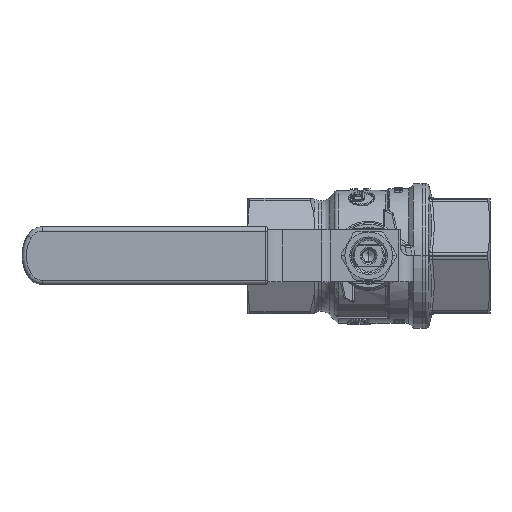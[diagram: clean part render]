
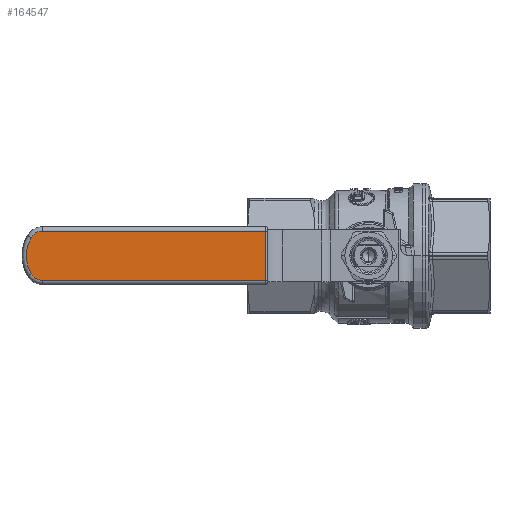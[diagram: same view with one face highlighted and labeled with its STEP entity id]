
A CAD part, top view. The second image highlights one B-rep face of the part: STEP entity #164547.
In plain terms, the highlighted planar face has unit normal (0, 0, 1).
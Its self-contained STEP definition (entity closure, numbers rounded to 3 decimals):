
#163568 = CYLINDRICAL_SURFACE('',#163569,0.7);
#163569 = AXIS2_PLACEMENT_3D('',#163570,#163571,#163572);
#163570 = CARTESIAN_POINT('',(-35.7,-21.651,51.085));
#163571 = DIRECTION('',(0.,-1.,0.));
#163572 = DIRECTION('',(0.,0.,1.));
#164068 = VERTEX_POINT('',#164069);
#164069 = CARTESIAN_POINT('',(-35.7,-21.785,51.785));
#164091 = EDGE_CURVE('',#164068,#164092,#164094,.T.);
#164092 = VERTEX_POINT('',#164093);
#164093 = CARTESIAN_POINT('',(-35.7,-38.785,51.785));
#164094 = SURFACE_CURVE('',#164095,(#164099,#164106),.PCURVE_S1.);
#164095 = LINE('',#164096,#164097);
#164096 = CARTESIAN_POINT('',(-35.7,-21.785,51.785));
#164097 = VECTOR('',#164098,1.);
#164098 = DIRECTION('',(0.,-1.,0.));
#164099 = PCURVE('',#163568,#164100);
#164100 = DEFINITIONAL_REPRESENTATION('',(#164101),#164105);
#164101 = LINE('',#164102,#164103);
#164102 = CARTESIAN_POINT('',(6.283,0.135));
#164103 = VECTOR('',#164104,1.);
#164104 = DIRECTION('',(0.,1.));
#164105 = ( GEOMETRIC_REPRESENTATION_CONTEXT(2) 
PARAMETRIC_REPRESENTATION_CONTEXT() REPRESENTATION_CONTEXT('2D SPACE',''
  ) );
#164106 = PCURVE('',#164107,#164112);
#164107 = PLANE('',#164108);
#164108 = AXIS2_PLACEMENT_3D('',#164109,#164110,#164111);
#164109 = CARTESIAN_POINT('',(-120.,-20.285,51.785));
#164110 = DIRECTION('',(0.,0.,1.));
#164111 = DIRECTION('',(0.,-1.,0.));
#164112 = DEFINITIONAL_REPRESENTATION('',(#164113),#164117);
#164113 = LINE('',#164114,#164115);
#164114 = CARTESIAN_POINT('',(1.5,84.3));
#164115 = VECTOR('',#164116,1.);
#164116 = DIRECTION('',(1.,0.));
#164117 = ( GEOMETRIC_REPRESENTATION_CONTEXT(2) 
PARAMETRIC_REPRESENTATION_CONTEXT() REPRESENTATION_CONTEXT('2D SPACE',''
  ) );
#164163 = CYLINDRICAL_SURFACE('',#164164,1.5);
#164164 = AXIS2_PLACEMENT_3D('',#164165,#164166,#164167);
#164165 = CARTESIAN_POINT('',(-113.045,-38.785,
    50.285));
#164166 = DIRECTION('',(1.,0.,0.));
#164167 = DIRECTION('',(0.,-1.,0.));
#164457 = TOROIDAL_SURFACE('',#164458,4.5,1.5);
#164458 = AXIS2_PLACEMENT_3D('',#164459,#164460,#164461);
#164459 = CARTESIAN_POINT('',(-112.928,-34.285,
    50.285));
#164460 = DIRECTION('',(0.,0.,-1.));
#164461 = DIRECTION('',(-0.882,-0.472,
    0.));
#164473 = VERTEX_POINT('',#164474);
#164474 = CARTESIAN_POINT('',(-116.825,-36.535,
    51.785));
#164489 = TOROIDAL_SURFACE('',#164490,12.5,1.5);
#164490 = AXIS2_PLACEMENT_3D('',#164491,#164492,#164493);
#164491 = CARTESIAN_POINT('',(-106.,-30.285,50.285));
#164492 = DIRECTION('',(0.,0.,1.));
#164493 = DIRECTION('',(-0.861,0.508,0.)
  );
#164503 = VERTEX_POINT('',#164504);
#164504 = CARTESIAN_POINT('',(-112.928,-38.785,
    51.785));
#164526 = EDGE_CURVE('',#164473,#164503,#164527,.T.);
#164527 = SURFACE_CURVE('',#164528,(#164533,#164540),.PCURVE_S1.);
#164528 = CIRCLE('',#164529,4.5);
#164529 = AXIS2_PLACEMENT_3D('',#164530,#164531,#164532);
#164530 = CARTESIAN_POINT('',(-112.928,-34.285,
    51.785));
#164531 = DIRECTION('',(0.,0.,1.));
#164532 = DIRECTION('',(-0.866,-0.5,0.));
#164533 = PCURVE('',#164457,#164534);
#164534 = DEFINITIONAL_REPRESENTATION('',(#164535),#164539);
#164535 = LINE('',#164536,#164537);
#164536 = CARTESIAN_POINT('',(6.251,4.712));
#164537 = VECTOR('',#164538,1.);
#164538 = DIRECTION('',(-1.,0.));
#164539 = ( GEOMETRIC_REPRESENTATION_CONTEXT(2) 
PARAMETRIC_REPRESENTATION_CONTEXT() REPRESENTATION_CONTEXT('2D SPACE',''
  ) );
#164540 = PCURVE('',#164107,#164541);
#164541 = DEFINITIONAL_REPRESENTATION('',(#164542),#164546);
#164542 = CIRCLE('',#164543,4.5);
#164543 = AXIS2_PLACEMENT_2D('',#164544,#164545);
#164544 = CARTESIAN_POINT('',(14.,7.072));
#164545 = DIRECTION('',(0.5,-0.866));
#164546 = ( GEOMETRIC_REPRESENTATION_CONTEXT(2) 
PARAMETRIC_REPRESENTATION_CONTEXT() REPRESENTATION_CONTEXT('2D SPACE',''
  ) );
#164547 = ADVANCED_FACE('',(#164548),#164107,.T.);
#164548 = FACE_BOUND('',#164549,.T.);
#164549 = EDGE_LOOP('',(#164550,#164578,#164607,#164629,#164630,#164651)
  );
#164550 = ORIENTED_EDGE('',*,*,#164551,.T.);
#164551 = EDGE_CURVE('',#164068,#164552,#164554,.T.);
#164552 = VERTEX_POINT('',#164553);
#164553 = CARTESIAN_POINT('',(-112.928,-21.785,
    51.785));
#164554 = SURFACE_CURVE('',#164555,(#164559,#164566),.PCURVE_S1.);
#164555 = LINE('',#164556,#164557);
#164556 = CARTESIAN_POINT('',(-35.7,-21.785,51.785));
#164557 = VECTOR('',#164558,1.);
#164558 = DIRECTION('',(-1.,0.,0.));
#164559 = PCURVE('',#164107,#164560);
#164560 = DEFINITIONAL_REPRESENTATION('',(#164561),#164565);
#164561 = LINE('',#164562,#164563);
#164562 = CARTESIAN_POINT('',(1.5,84.3));
#164563 = VECTOR('',#164564,1.);
#164564 = DIRECTION('',(0.,-1.));
#164565 = ( GEOMETRIC_REPRESENTATION_CONTEXT(2) 
PARAMETRIC_REPRESENTATION_CONTEXT() REPRESENTATION_CONTEXT('2D SPACE',''
  ) );
#164566 = PCURVE('',#164567,#164572);
#164567 = CYLINDRICAL_SURFACE('',#164568,1.5);
#164568 = AXIS2_PLACEMENT_3D('',#164569,#164570,#164571);
#164569 = CARTESIAN_POINT('',(-34.863,-21.785,
    50.285));
#164570 = DIRECTION('',(-1.,0.,0.));
#164571 = DIRECTION('',(0.,1.,0.));
#164572 = DEFINITIONAL_REPRESENTATION('',(#164573),#164577);
#164573 = LINE('',#164574,#164575);
#164574 = CARTESIAN_POINT('',(4.712,0.837));
#164575 = VECTOR('',#164576,1.);
#164576 = DIRECTION('',(0.,1.));
#164577 = ( GEOMETRIC_REPRESENTATION_CONTEXT(2) 
PARAMETRIC_REPRESENTATION_CONTEXT() REPRESENTATION_CONTEXT('2D SPACE',''
  ) );
#164578 = ORIENTED_EDGE('',*,*,#164579,.T.);
#164579 = EDGE_CURVE('',#164552,#164580,#164582,.T.);
#164580 = VERTEX_POINT('',#164581);
#164581 = CARTESIAN_POINT('',(-116.825,-24.035,
    51.785));
#164582 = SURFACE_CURVE('',#164583,(#164588,#164595),.PCURVE_S1.);
#164583 = CIRCLE('',#164584,4.5);
#164584 = AXIS2_PLACEMENT_3D('',#164585,#164586,#164587);
#164585 = CARTESIAN_POINT('',(-112.928,-26.285,
    51.785));
#164586 = DIRECTION('',(0.,0.,1.));
#164587 = DIRECTION('',(0.,1.,0.));
#164588 = PCURVE('',#164107,#164589);
#164589 = DEFINITIONAL_REPRESENTATION('',(#164590),#164594);
#164590 = CIRCLE('',#164591,4.5);
#164591 = AXIS2_PLACEMENT_2D('',#164592,#164593);
#164592 = CARTESIAN_POINT('',(6.,7.072));
#164593 = DIRECTION('',(-1.,0.));
#164594 = ( GEOMETRIC_REPRESENTATION_CONTEXT(2) 
PARAMETRIC_REPRESENTATION_CONTEXT() REPRESENTATION_CONTEXT('2D SPACE',''
  ) );
#164595 = PCURVE('',#164596,#164601);
#164596 = TOROIDAL_SURFACE('',#164597,4.5,1.5);
#164597 = AXIS2_PLACEMENT_3D('',#164598,#164599,#164600);
#164598 = CARTESIAN_POINT('',(-112.928,-26.285,
    50.285));
#164599 = DIRECTION('',(0.,0.,1.));
#164600 = DIRECTION('',(0.022,1.,
    0.));
#164601 = DEFINITIONAL_REPRESENTATION('',(#164602),#164606);
#164602 = LINE('',#164603,#164604);
#164603 = CARTESIAN_POINT('',(0.022,1.571));
#164604 = VECTOR('',#164605,1.);
#164605 = DIRECTION('',(1.,0.));
#164606 = ( GEOMETRIC_REPRESENTATION_CONTEXT(2) 
PARAMETRIC_REPRESENTATION_CONTEXT() REPRESENTATION_CONTEXT('2D SPACE',''
  ) );
#164607 = ORIENTED_EDGE('',*,*,#164608,.T.);
#164608 = EDGE_CURVE('',#164580,#164473,#164609,.T.);
#164609 = SURFACE_CURVE('',#164610,(#164615,#164622),.PCURVE_S1.);
#164610 = CIRCLE('',#164611,12.5);
#164611 = AXIS2_PLACEMENT_3D('',#164612,#164613,#164614);
#164612 = CARTESIAN_POINT('',(-106.,-30.285,51.785));
#164613 = DIRECTION('',(0.,0.,1.));
#164614 = DIRECTION('',(-0.866,0.5,0.));
#164615 = PCURVE('',#164107,#164616);
#164616 = DEFINITIONAL_REPRESENTATION('',(#164617),#164621);
#164617 = CIRCLE('',#164618,12.5);
#164618 = AXIS2_PLACEMENT_2D('',#164619,#164620);
#164619 = CARTESIAN_POINT('',(10.,14.));
#164620 = DIRECTION('',(-0.5,-0.866));
#164621 = ( GEOMETRIC_REPRESENTATION_CONTEXT(2) 
PARAMETRIC_REPRESENTATION_CONTEXT() REPRESENTATION_CONTEXT('2D SPACE',''
  ) );
#164622 = PCURVE('',#164489,#164623);
#164623 = DEFINITIONAL_REPRESENTATION('',(#164624),#164628);
#164624 = LINE('',#164625,#164626);
#164625 = CARTESIAN_POINT('',(0.01,1.571));
#164626 = VECTOR('',#164627,1.);
#164627 = DIRECTION('',(1.,0.));
#164628 = ( GEOMETRIC_REPRESENTATION_CONTEXT(2) 
PARAMETRIC_REPRESENTATION_CONTEXT() REPRESENTATION_CONTEXT('2D SPACE',''
  ) );
#164629 = ORIENTED_EDGE('',*,*,#164526,.T.);
#164630 = ORIENTED_EDGE('',*,*,#164631,.T.);
#164631 = EDGE_CURVE('',#164503,#164092,#164632,.T.);
#164632 = SURFACE_CURVE('',#164633,(#164637,#164644),.PCURVE_S1.);
#164633 = LINE('',#164634,#164635);
#164634 = CARTESIAN_POINT('',(-112.928,-38.785,
    51.785));
#164635 = VECTOR('',#164636,1.);
#164636 = DIRECTION('',(1.,0.,0.));
#164637 = PCURVE('',#164107,#164638);
#164638 = DEFINITIONAL_REPRESENTATION('',(#164639),#164643);
#164639 = LINE('',#164640,#164641);
#164640 = CARTESIAN_POINT('',(18.5,7.072));
#164641 = VECTOR('',#164642,1.);
#164642 = DIRECTION('',(0.,1.));
#164643 = ( GEOMETRIC_REPRESENTATION_CONTEXT(2) 
PARAMETRIC_REPRESENTATION_CONTEXT() REPRESENTATION_CONTEXT('2D SPACE',''
  ) );
#164644 = PCURVE('',#164163,#164645);
#164645 = DEFINITIONAL_REPRESENTATION('',(#164646),#164650);
#164646 = LINE('',#164647,#164648);
#164647 = CARTESIAN_POINT('',(4.712,0.117));
#164648 = VECTOR('',#164649,1.);
#164649 = DIRECTION('',(0.,1.));
#164650 = ( GEOMETRIC_REPRESENTATION_CONTEXT(2) 
PARAMETRIC_REPRESENTATION_CONTEXT() REPRESENTATION_CONTEXT('2D SPACE',''
  ) );
#164651 = ORIENTED_EDGE('',*,*,#164091,.F.);
